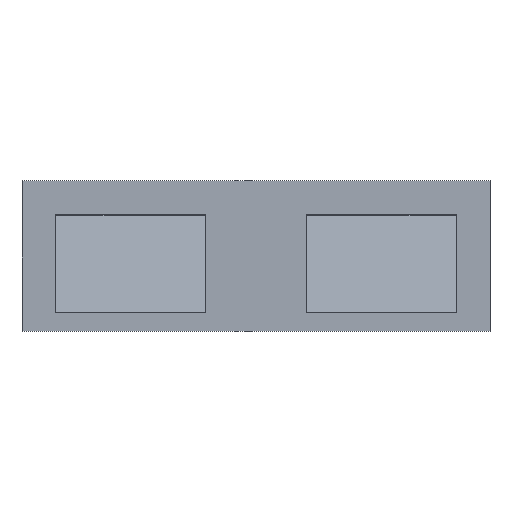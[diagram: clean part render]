
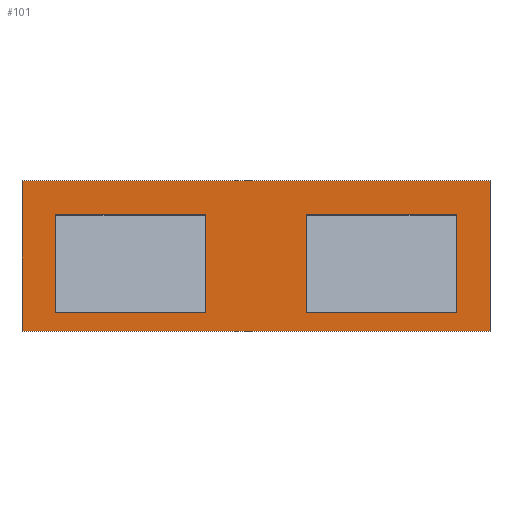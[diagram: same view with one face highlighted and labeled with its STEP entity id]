
A CAD part, top view. The second image highlights one B-rep face of the part: STEP entity #101.
In plain terms, the highlighted planar face has unit normal (0, 0, 1).
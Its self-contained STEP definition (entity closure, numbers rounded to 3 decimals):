
#48=FACE_BOUND('',#334,.T.);
#49=FACE_BOUND('',#335,.T.);
#50=FACE_BOUND('',#336,.T.);
#101=ADVANCED_FACE('',(#48,#49,#50),#185,.F.);
#185=PLANE('',#1610);
#334=EDGE_LOOP('',(#544,#545,#546,#547));
#335=EDGE_LOOP('',(#548,#549,#550,#551));
#336=EDGE_LOOP('',(#552,#553,#554,#555));
#544=ORIENTED_EDGE('',*,*,#1048,.F.);
#545=ORIENTED_EDGE('',*,*,#1097,.F.);
#546=ORIENTED_EDGE('',*,*,#1095,.T.);
#547=ORIENTED_EDGE('',*,*,#1098,.T.);
#548=ORIENTED_EDGE('',*,*,#1009,.T.);
#549=ORIENTED_EDGE('',*,*,#1047,.T.);
#550=ORIENTED_EDGE('',*,*,#1099,.F.);
#551=ORIENTED_EDGE('',*,*,#1100,.F.);
#552=ORIENTED_EDGE('',*,*,#1101,.F.);
#553=ORIENTED_EDGE('',*,*,#1102,.T.);
#554=ORIENTED_EDGE('',*,*,#1103,.T.);
#555=ORIENTED_EDGE('',*,*,#1104,.F.);
#863=VERTEX_POINT('',#2082);
#867=VERTEX_POINT('',#2089);
#901=VERTEX_POINT('',#2170);
#902=VERTEX_POINT('',#2174);
#903=VERTEX_POINT('',#2175);
#937=VERTEX_POINT('',#2296);
#938=VERTEX_POINT('',#2298);
#939=VERTEX_POINT('',#2304);
#940=VERTEX_POINT('',#2307);
#941=VERTEX_POINT('',#2308);
#942=VERTEX_POINT('',#2310);
#943=VERTEX_POINT('',#2312);
#1009=EDGE_CURVE('',#863,#867,#1222,.T.);
#1047=EDGE_CURVE('',#867,#901,#1259,.T.);
#1048=EDGE_CURVE('',#902,#903,#1260,.T.);
#1095=EDGE_CURVE('',#938,#937,#1302,.T.);
#1097=EDGE_CURVE('',#938,#902,#1304,.T.);
#1098=EDGE_CURVE('',#937,#903,#1305,.T.);
#1099=EDGE_CURVE('',#939,#901,#1306,.T.);
#1100=EDGE_CURVE('',#863,#939,#1307,.T.);
#1101=EDGE_CURVE('',#940,#941,#1308,.T.);
#1102=EDGE_CURVE('',#940,#942,#1309,.T.);
#1103=EDGE_CURVE('',#942,#943,#1310,.T.);
#1104=EDGE_CURVE('',#941,#943,#1311,.T.);
#1222=LINE('',#2090,#1410);
#1259=LINE('',#2171,#1447);
#1260=LINE('',#2173,#1448);
#1302=LINE('',#2297,#1490);
#1304=LINE('',#2301,#1492);
#1305=LINE('',#2302,#1493);
#1306=LINE('',#2303,#1494);
#1307=LINE('',#2305,#1495);
#1308=LINE('',#2306,#1496);
#1309=LINE('',#2309,#1497);
#1310=LINE('',#2311,#1498);
#1311=LINE('',#2313,#1499);
#1410=VECTOR('',#1698,1.);
#1447=VECTOR('',#1747,1.);
#1448=VECTOR('',#1750,1.);
#1490=VECTOR('',#1812,1.);
#1492=VECTOR('',#1816,1.);
#1493=VECTOR('',#1817,1.);
#1494=VECTOR('',#1818,1.);
#1495=VECTOR('',#1819,1.);
#1496=VECTOR('',#1820,1.);
#1497=VECTOR('',#1821,1.);
#1498=VECTOR('',#1822,1.);
#1499=VECTOR('',#1823,1.);
#1610=AXIS2_PLACEMENT_3D('',#2314,#1824,#1825);
#1698=DIRECTION('',(0.,-1.,0.));
#1747=DIRECTION('',(-1.,0.,0.));
#1750=DIRECTION('',(-1.,0.,0.));
#1812=DIRECTION('',(-1.,0.,0.));
#1816=DIRECTION('',(0.,-1.,0.));
#1817=DIRECTION('',(0.,-1.,0.));
#1818=DIRECTION('',(0.,-1.,0.));
#1819=DIRECTION('',(-1.,0.,0.));
#1820=DIRECTION('',(0.,-1.,0.));
#1821=DIRECTION('',(1.,0.,0.));
#1822=DIRECTION('',(0.,-1.,0.));
#1823=DIRECTION('',(1.,0.,0.));
#1824=DIRECTION('',(0.,0.,-1.));
#1825=DIRECTION('',(-1.,0.,0.));
#2082=CARTESIAN_POINT('',(225.,28.,0.));
#2089=CARTESIAN_POINT('',(225.,-267.,0.));
#2090=CARTESIAN_POINT('',(225.,128.,0.));
#2170=CARTESIAN_POINT('',(-225.,-267.,0.));
#2171=CARTESIAN_POINT('',(225.,-267.,0.));
#2173=CARTESIAN_POINT('',(225.,-322.,0.));
#2174=CARTESIAN_POINT('',(1075.,-322.,0.));
#2175=CARTESIAN_POINT('',(-325.,-322.,0.));
#2296=CARTESIAN_POINT('',(-325.,128.,0.));
#2297=CARTESIAN_POINT('',(225.,128.,0.));
#2298=CARTESIAN_POINT('',(1075.,128.,0.));
#2301=CARTESIAN_POINT('',(1075.,128.,0.));
#2302=CARTESIAN_POINT('',(-325.,128.,0.));
#2303=CARTESIAN_POINT('',(-225.,128.,0.));
#2304=CARTESIAN_POINT('',(-225.,28.,0.));
#2305=CARTESIAN_POINT('',(225.,28.,0.));
#2306=CARTESIAN_POINT('',(525.,128.,0.));
#2307=CARTESIAN_POINT('',(525.,28.,0.));
#2308=CARTESIAN_POINT('',(525.,-267.,0.));
#2309=CARTESIAN_POINT('',(525.,28.,0.));
#2310=CARTESIAN_POINT('',(975.,28.,0.));
#2311=CARTESIAN_POINT('',(975.,128.,0.));
#2312=CARTESIAN_POINT('',(975.,-267.,0.));
#2313=CARTESIAN_POINT('',(525.,-267.,0.));
#2314=CARTESIAN_POINT('',(225.,128.,0.));
